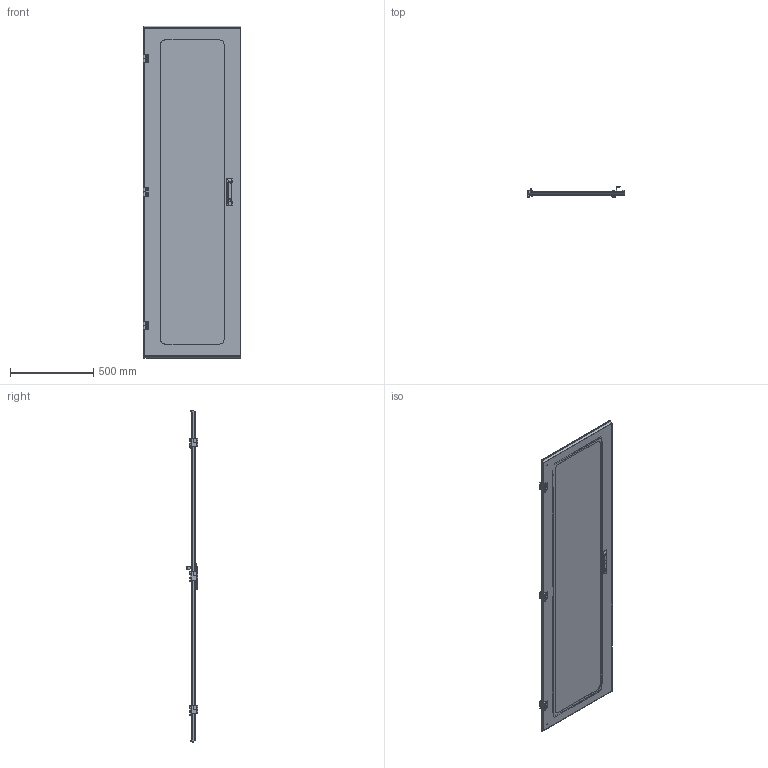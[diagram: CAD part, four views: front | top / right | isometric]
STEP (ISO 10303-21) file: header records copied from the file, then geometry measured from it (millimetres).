
FILE_DESCRIPTION(/* description */ ('Unknown'),/* implementation_level */ '2;1');
FILE_NAME(/* name */ 'C4D2473WBK1',/* time_stamp */ '2026-03-20T15:22:29-04:00',/* author */ ('Unknown'),/* organization */ ('Unknown'),/* preprocessor_version */ 'ST-DEVELOPER v18.104',/* originating_system */ 'Solid Edge',/* authorisation */ 'Unknown');
FILE_SCHEMA (('AUTOMOTIVE_DESIGN {1 0 10303 214 3 1 1}'));
Products named in the file (18): C4D2473W; BMP01631; COM57696-22; std26020; HNG14604; HNG14604-3; HNG14604-2; HNG14604-1; HNG14604-1A; HNG14604-1B; HNG14604-1C; COM57698-22; LOC88025; COM54241; NTS17050; COM54432; COM57701
Assembly tree (58 placements, depth 4):
  C4D2473W
    BMP01631  x3
    COM57696-22
      COM57696-22
      std26020  x18
    HNG14604  x3
      HNG14604-3
      HNG14604-2
      HNG14604-1
        HNG14604-1A
        HNG14604-1B
        HNG14604-1C
    COM57698-22
    LOC88025
    COM54241  x2
    NTS17050  x16
    COM54432  x4
    COM57701
Bounding box: 588.32 x 70.33 x 1995.5 mm (x, y, z)
Volume: 5993022 mm3; surface area: 3114032 mm2
Topology: 73 solids, 73 shells, 4634 faces, 11808 edges, 7578 vertices
Faces by surface type: plane 2932, cylinder 1028, bspline 340, torus 131, sphere 113, cone 90
Full cylindrical faces by diameter (mm): 3.1 x3, 3.967 x16, 4.2 x2, 4.297 x3, 4.641 x1, 4.775 x18, 4.8 x1, 5 x3, 5.2 x1, 5.5 x2, 6 x9, 6.02 x3, 6.1 x3, 6.2 x12, 6.35 x18, 6.5 x1, 6.6 x1, 9.3 x1, 9.95 x12, 10 x3, 10.312 x6, 11 x1, 11.05 x1, 11.9 x1, 12 x6, 12.05 x1, 13.5 x1, 16.1 x1, 16.7 x1, 16.8 x1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
Entity records: 112110 total; most frequent: CARTESIAN_POINT 37607, ORIENTED_EDGE 16130, DIRECTION 14013, EDGE_CURVE 8065, VERTEX_POINT 5195, LINE 4797, VECTOR 4797, AXIS2_PLACEMENT_3D 4608
